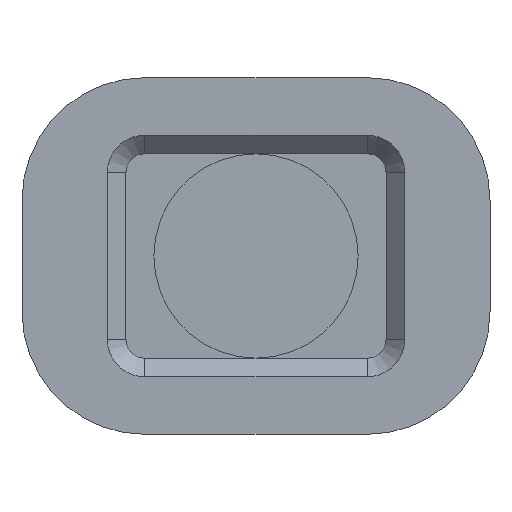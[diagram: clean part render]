
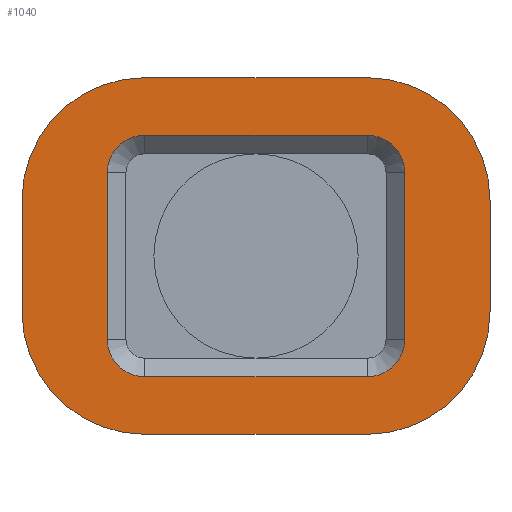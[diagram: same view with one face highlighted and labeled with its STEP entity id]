
A CAD part, front view. The second image highlights one B-rep face of the part: STEP entity #1040.
In plain terms, the highlighted planar face has unit normal (0, -1, 0).
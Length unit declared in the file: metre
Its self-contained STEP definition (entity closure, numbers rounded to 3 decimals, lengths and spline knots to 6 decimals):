
#60=LINE('',#1663,#154);
#61=LINE('',#1667,#155);
#62=LINE('',#1671,#156);
#63=LINE('',#1675,#157);
#64=LINE('',#1679,#158);
#65=LINE('',#1683,#159);
#66=LINE('',#1687,#160);
#67=LINE('',#1691,#161);
#154=VECTOR('',#1301,1.);
#155=VECTOR('',#1304,1.);
#156=VECTOR('',#1307,1.);
#157=VECTOR('',#1310,1.);
#158=VECTOR('',#1313,1.);
#159=VECTOR('',#1316,1.);
#160=VECTOR('',#1319,1.);
#161=VECTOR('',#1322,1.);
#265=ORIENTED_EDGE('',*,*,#579,.F.);
#266=ORIENTED_EDGE('',*,*,#580,.T.);
#267=ORIENTED_EDGE('',*,*,#581,.F.);
#268=ORIENTED_EDGE('',*,*,#582,.T.);
#269=ORIENTED_EDGE('',*,*,#583,.F.);
#270=ORIENTED_EDGE('',*,*,#584,.F.);
#271=ORIENTED_EDGE('',*,*,#585,.F.);
#272=ORIENTED_EDGE('',*,*,#586,.F.);
#273=ORIENTED_EDGE('',*,*,#587,.F.);
#274=ORIENTED_EDGE('',*,*,#588,.T.);
#275=ORIENTED_EDGE('',*,*,#589,.F.);
#276=ORIENTED_EDGE('',*,*,#590,.F.);
#277=ORIENTED_EDGE('',*,*,#591,.F.);
#278=ORIENTED_EDGE('',*,*,#592,.F.);
#279=ORIENTED_EDGE('',*,*,#593,.F.);
#280=ORIENTED_EDGE('',*,*,#594,.T.);
#579=EDGE_CURVE('',#736,#737,#822,.F.);
#580=EDGE_CURVE('',#736,#738,#60,.T.);
#581=EDGE_CURVE('',#739,#738,#823,.F.);
#582=EDGE_CURVE('',#739,#740,#61,.T.);
#583=EDGE_CURVE('',#741,#740,#824,.F.);
#584=EDGE_CURVE('',#742,#741,#62,.T.);
#585=EDGE_CURVE('',#743,#742,#825,.F.);
#586=EDGE_CURVE('',#737,#743,#63,.T.);
#587=EDGE_CURVE('',#744,#745,#826,.T.);
#588=EDGE_CURVE('',#744,#746,#64,.T.);
#589=EDGE_CURVE('',#747,#746,#827,.T.);
#590=EDGE_CURVE('',#748,#747,#65,.T.);
#591=EDGE_CURVE('',#749,#748,#828,.T.);
#592=EDGE_CURVE('',#750,#749,#66,.T.);
#593=EDGE_CURVE('',#751,#750,#829,.T.);
#594=EDGE_CURVE('',#751,#745,#67,.T.);
#736=VERTEX_POINT('',#1661);
#737=VERTEX_POINT('',#1662);
#738=VERTEX_POINT('',#1664);
#739=VERTEX_POINT('',#1666);
#740=VERTEX_POINT('',#1668);
#741=VERTEX_POINT('',#1670);
#742=VERTEX_POINT('',#1672);
#743=VERTEX_POINT('',#1674);
#744=VERTEX_POINT('',#1677);
#745=VERTEX_POINT('',#1678);
#746=VERTEX_POINT('',#1680);
#747=VERTEX_POINT('',#1682);
#748=VERTEX_POINT('',#1684);
#749=VERTEX_POINT('',#1686);
#750=VERTEX_POINT('',#1688);
#751=VERTEX_POINT('',#1690);
#822=CIRCLE('',#1136,0.0033);
#823=CIRCLE('',#1137,0.0033);
#824=CIRCLE('',#1138,0.0033);
#825=CIRCLE('',#1139,0.0033);
#826=CIRCLE('',#1140,0.001);
#827=CIRCLE('',#1141,0.001);
#828=CIRCLE('',#1142,0.001);
#829=CIRCLE('',#1143,0.001);
#872=EDGE_LOOP('',(#265,#266,#267,#268,#269,#270,#271,#272));
#873=EDGE_LOOP('',(#273,#274,#275,#276,#277,#278,#279,#280));
#942=FACE_BOUND('',#872,.T.);
#943=FACE_BOUND('',#873,.T.);
#1010=PLANE('',#1135);
#1040=ADVANCED_FACE('',(#942,#943),#1010,.T.);
#1135=AXIS2_PLACEMENT_3D('',#1659,#1297,#1298);
#1136=AXIS2_PLACEMENT_3D('',#1660,#1299,#1300);
#1137=AXIS2_PLACEMENT_3D('',#1665,#1302,#1303);
#1138=AXIS2_PLACEMENT_3D('',#1669,#1305,#1306);
#1139=AXIS2_PLACEMENT_3D('',#1673,#1308,#1309);
#1140=AXIS2_PLACEMENT_3D('',#1676,#1311,#1312);
#1141=AXIS2_PLACEMENT_3D('',#1681,#1314,#1315);
#1142=AXIS2_PLACEMENT_3D('',#1685,#1317,#1318);
#1143=AXIS2_PLACEMENT_3D('',#1689,#1320,#1321);
#1297=DIRECTION('',(0.,-1.,0.));
#1298=DIRECTION('',(1.,0.,0.));
#1299=DIRECTION('',(0.,-1.,0.));
#1300=DIRECTION('',(0.,0.,-1.));
#1301=DIRECTION('',(-1.,0.,0.));
#1302=DIRECTION('',(0.,-1.,0.));
#1303=DIRECTION('',(0.,0.,-1.));
#1304=DIRECTION('',(0.,0.,-1.));
#1305=DIRECTION('',(0.,-1.,0.));
#1306=DIRECTION('',(0.,0.,-1.));
#1307=DIRECTION('',(-1.,0.,0.));
#1308=DIRECTION('',(0.,-1.,0.));
#1309=DIRECTION('',(0.,0.,-1.));
#1310=DIRECTION('',(0.,0.,-1.));
#1311=DIRECTION('',(0.,-1.,0.));
#1312=DIRECTION('',(0.,0.,-1.));
#1313=DIRECTION('',(0.,0.,-1.));
#1314=DIRECTION('',(0.,-1.,0.));
#1315=DIRECTION('',(0.,0.,-1.));
#1316=DIRECTION('',(1.,0.,0.));
#1317=DIRECTION('',(0.,-1.,0.));
#1318=DIRECTION('',(0.,0.,-1.));
#1319=DIRECTION('',(0.,0.,-1.));
#1320=DIRECTION('',(0.,-1.,0.));
#1321=DIRECTION('',(0.,0.,-1.));
#1322=DIRECTION('',(1.,0.,0.));
#1659=CARTESIAN_POINT('',(0.,0.0062,0.));
#1660=CARTESIAN_POINT('',(-0.093875,0.0062,0.004745));
#1661=CARTESIAN_POINT('',(-0.093875,0.0062,0.008045));
#1662=CARTESIAN_POINT('',(-0.090575,0.0062,0.004745));
#1663=CARTESIAN_POINT('',(-0.096875,0.0062,0.008045));
#1664=CARTESIAN_POINT('',(-0.099875,0.0062,0.008045));
#1665=CARTESIAN_POINT('',(-0.099875,0.0062,0.004745));
#1666=CARTESIAN_POINT('',(-0.103175,0.0062,0.004745));
#1667=CARTESIAN_POINT('',(-0.103175,0.0062,0.003245));
#1668=CARTESIAN_POINT('',(-0.103175,0.0062,0.001745));
#1669=CARTESIAN_POINT('',(-0.099875,0.0062,0.001745));
#1670=CARTESIAN_POINT('',(-0.099875,0.0062,-0.001555));
#1671=CARTESIAN_POINT('',(-0.096875,0.0062,-0.001555));
#1672=CARTESIAN_POINT('',(-0.093875,0.0062,-0.001555));
#1673=CARTESIAN_POINT('',(-0.093875,0.0062,0.001745));
#1674=CARTESIAN_POINT('',(-0.090575,0.0062,0.001745));
#1675=CARTESIAN_POINT('',(-0.090575,0.0062,0.003245));
#1676=CARTESIAN_POINT('',(-0.093875,0.0062,0.005495));
#1677=CARTESIAN_POINT('',(-0.092875,0.0062,0.005495));
#1678=CARTESIAN_POINT('',(-0.093875,0.0062,0.006495));
#1679=CARTESIAN_POINT('',(-0.092875,0.0062,0.003245));
#1680=CARTESIAN_POINT('',(-0.092875,0.0062,0.000995));
#1681=CARTESIAN_POINT('',(-0.093875,0.0062,0.000995));
#1682=CARTESIAN_POINT('',(-0.093875,0.0062,-0.000005));
#1683=CARTESIAN_POINT('',(-0.096875,0.0062,-0.000005));
#1684=CARTESIAN_POINT('',(-0.099875,0.0062,-0.000005));
#1685=CARTESIAN_POINT('',(-0.099875,0.0062,0.000995));
#1686=CARTESIAN_POINT('',(-0.100875,0.0062,0.000995));
#1687=CARTESIAN_POINT('',(-0.100875,0.0062,0.003245));
#1688=CARTESIAN_POINT('',(-0.100875,0.0062,0.005495));
#1689=CARTESIAN_POINT('',(-0.099875,0.0062,0.005495));
#1690=CARTESIAN_POINT('',(-0.099875,0.0062,0.006495));
#1691=CARTESIAN_POINT('',(-0.096875,0.0062,0.006495));
